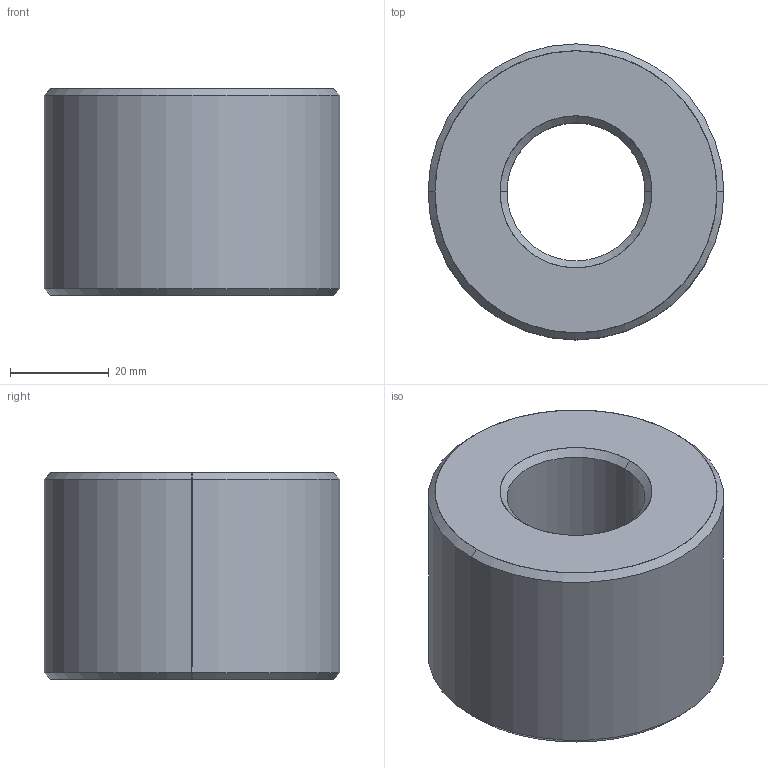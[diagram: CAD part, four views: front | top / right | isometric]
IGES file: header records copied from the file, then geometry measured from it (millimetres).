
Start section: SolidWorks IGES file using analytic representation for surfaces
Global section: file name: C:\Users\ianosborn\Desktop\L1339_v2\L1339_v2_20241024_IGES\L1339.L28-05.igs; native system: SolidWorks 2019; preprocessor: SolidWorks 2019; author: IanOsborn; date: 241024.150614; units: millimetre
Bounding box: 60 x 60 x 42 mm (x, y, z)
Surface area: 15581.2 mm2 (no closed solid volume)
Topology: 0 solids, 0 shells, 14 faces, 304 edges, 304 vertices
Faces by surface type: revolution 12, bspline 2
